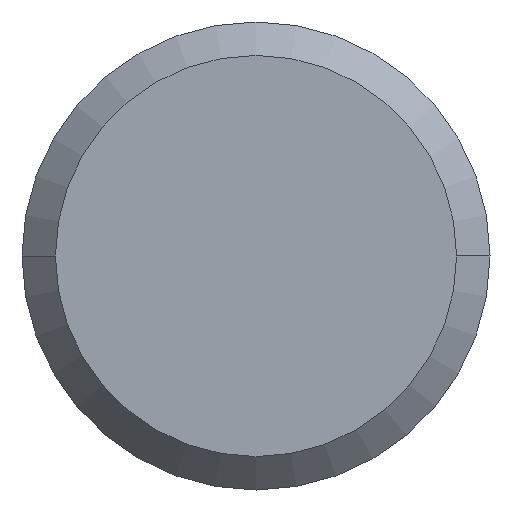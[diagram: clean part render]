
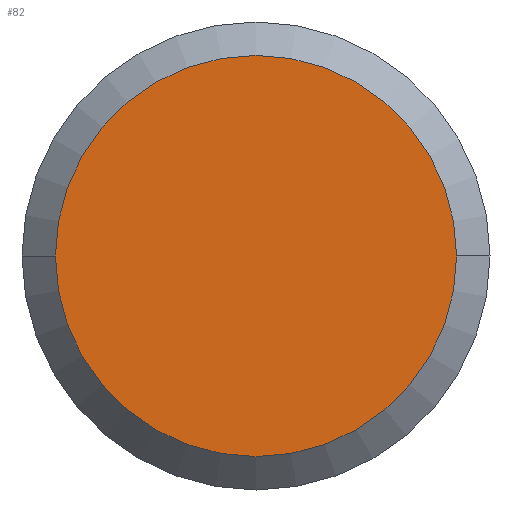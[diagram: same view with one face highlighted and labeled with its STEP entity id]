
A CAD part, front view. The second image highlights one B-rep face of the part: STEP entity #82.
In plain terms, the highlighted planar face has unit normal (0, -1, 0).
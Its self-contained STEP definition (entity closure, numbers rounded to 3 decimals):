
#82 = ADVANCED_FACE( '', ( #98 ), #99, .T. );
#98 = FACE_OUTER_BOUND( '', #114, .T. );
#99 = PLANE( '', #115 );
#114 = EDGE_LOOP( '', ( #163, #164 ) );
#115 = AXIS2_PLACEMENT_3D( '', #165, #166, #167 );
#163 = ORIENTED_EDGE( '', *, *, #171, .T. );
#164 = ORIENTED_EDGE( '', *, *, #181, .T. );
#165 = CARTESIAN_POINT( '', ( -3., -24.8, 0. ) );
#166 = DIRECTION( '', ( 0., -1., 0. ) );
#167 = DIRECTION( '', ( -1., 0., 0. ) );
#171 = EDGE_CURVE( '', #183, #187, #189, .T. );
#181 = EDGE_CURVE( '', #187, #183, #203, .T. );
#183 = VERTEX_POINT( '', #205 );
#187 = VERTEX_POINT( '', #210 );
#189 = CIRCLE( '', #213, 6. );
#203 = CIRCLE( '', #231, 6. );
#205 = CARTESIAN_POINT( '', ( -6., -24.8, 0. ) );
#210 = CARTESIAN_POINT( '', ( 6., -24.8, 0. ) );
#213 = AXIS2_PLACEMENT_3D( '', #237, #238, #239 );
#231 = AXIS2_PLACEMENT_3D( '', #259, #260, #261 );
#237 = CARTESIAN_POINT( '', ( 0., -24.8, 0. ) );
#238 = DIRECTION( '', ( 0., -1., 0. ) );
#239 = DIRECTION( '', ( -1., 0., 0. ) );
#259 = CARTESIAN_POINT( '', ( 0., -24.8, 0. ) );
#260 = DIRECTION( '', ( 0., -1., 0. ) );
#261 = DIRECTION( '', ( -1., 0., 0. ) );
